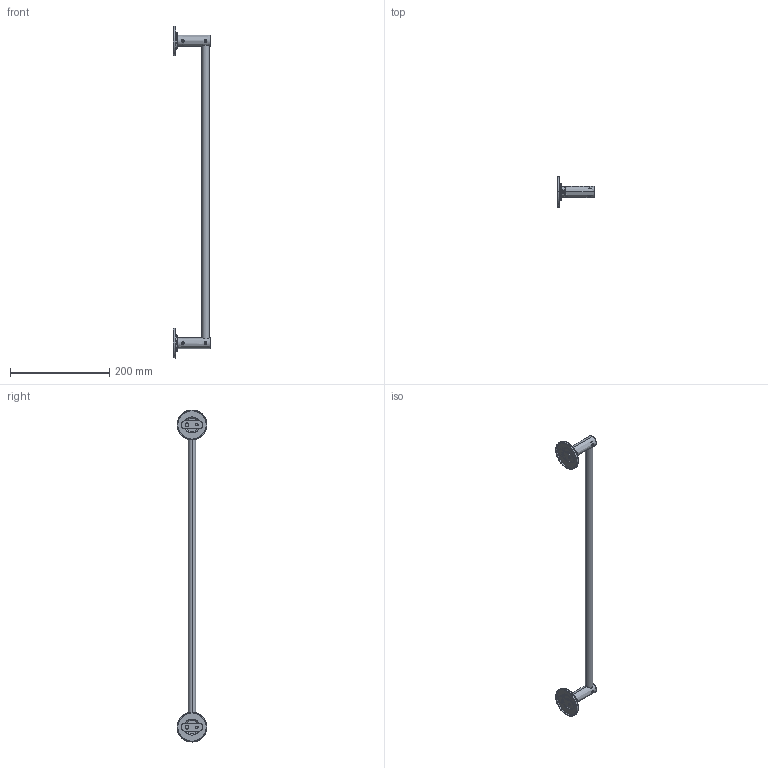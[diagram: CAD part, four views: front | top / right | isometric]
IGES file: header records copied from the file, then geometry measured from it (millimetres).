
Start section: SolidWorks IGES file using analytic representation for surfaces
Global section: file name: C:\Users\ccai\Desktop\CeliaC\Projects\0731-ADHOC-02292 Netural Files\0000sku_AU5SERIES_\sku_au5series_igs.IGS; native system: SolidWorks 2023; preprocessor: SolidWorks 2023; author: ccai; date: 240724.150221; units: inch
Bounding box: 75 x 60 x 669.6 mm (x, y, z)
Surface area: 91317.9 mm2 (no closed solid volume)
Topology: 0 solids, 0 shells, 541 faces, 7854 edges, 7834 vertices
Faces by surface type: revolution 281, bspline 260
